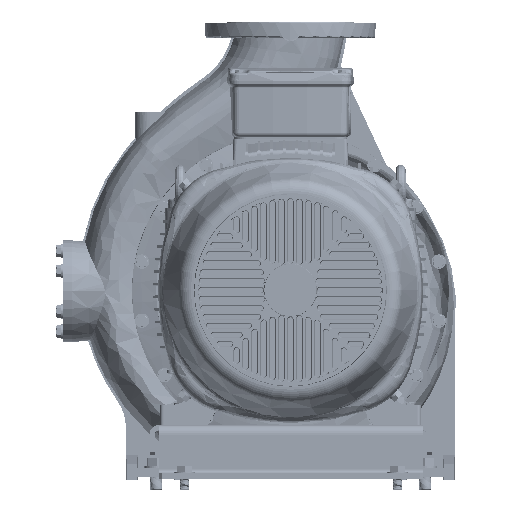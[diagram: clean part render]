
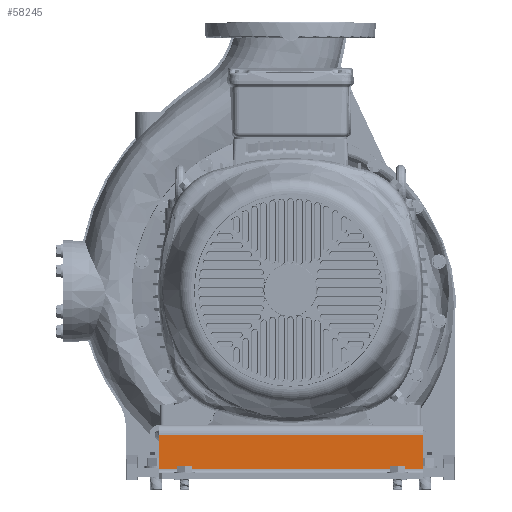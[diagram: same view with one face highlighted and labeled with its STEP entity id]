
A CAD part, top view. The second image highlights one B-rep face of the part: STEP entity #58245.
In plain terms, the highlighted planar face has unit normal (0, 0, 1) as drawn and (1, 0, 0) by its records, which use the part's own axes.
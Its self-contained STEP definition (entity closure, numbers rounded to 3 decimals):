
#5104 = CARTESIAN_POINT ( 'NONE',  ( 466., 74., -473.001 ) ) ;
#7392 = VERTEX_POINT ( 'NONE', #31119 ) ;
#9989 = FACE_OUTER_BOUND ( 'NONE', #92542, .T. ) ;
#10890 = CARTESIAN_POINT ( 'NONE',  ( 466., 90., -473.001 ) ) ;
#15568 = CARTESIAN_POINT ( 'NONE',  ( 466., 16., -457. ) ) ;
#16462 = AXIS2_PLACEMENT_3D ( 'NONE', #10890, #124002, #93917 ) ;
#17474 = ORIENTED_EDGE ( 'NONE', *, *, #66719, .T. ) ;
#18796 = VECTOR ( 'NONE', #115772, 1000. ) ;
#22412 = CARTESIAN_POINT ( 'NONE',  ( 466., -0.001, -457. ) ) ;
#29575 = VECTOR ( 'NONE', #61604, 1000. ) ;
#31016 = DIRECTION ( 'NONE',  ( 0., 0., -1. ) ) ;
#31119 = CARTESIAN_POINT ( 'NONE',  ( 466., 16., -16. ) ) ;
#32696 = CARTESIAN_POINT ( 'NONE',  ( 466., 16., -457. ) ) ;
#43731 = LINE ( 'NONE', #170546, #18796 ) ;
#51957 = ORIENTED_EDGE ( 'NONE', *, *, #166198, .T. ) ;
#58245 = ADVANCED_FACE ( 'NONE', ( #9989 ), #162381, .F. ) ;
#59825 = DIRECTION ( 'NONE',  ( 0., 0., 1. ) ) ;
#61604 = DIRECTION ( 'NONE',  ( 0., -1., 0. ) ) ;
#64205 = CARTESIAN_POINT ( 'NONE',  ( 466., 74., -457. ) ) ;
#66719 = EDGE_CURVE ( 'NONE', #146847, #98795, #117332, .T. ) ;
#83056 = ORIENTED_EDGE ( 'NONE', *, *, #161215, .F. ) ;
#85430 = VECTOR ( 'NONE', #31016, 1000. ) ;
#85787 = LINE ( 'NONE', #15568, #85430 ) ;
#92111 = VERTEX_POINT ( 'NONE', #32696 ) ;
#92542 = EDGE_LOOP ( 'NONE', ( #144990, #51957, #83056, #17474 ) ) ;
#93917 = DIRECTION ( 'NONE',  ( 0., -1., 0. ) ) ;
#97785 = EDGE_CURVE ( 'NONE', #7392, #98795, #43731, .T. ) ;
#98795 = VERTEX_POINT ( 'NONE', #177521 ) ;
#115772 = DIRECTION ( 'NONE',  ( 0., 1., 0. ) ) ;
#117332 = LINE ( 'NONE', #5104, #174264 ) ;
#124002 = DIRECTION ( 'NONE',  ( -1., 0., 0. ) ) ;
#131012 = LINE ( 'NONE', #22412, #29575 ) ;
#144990 = ORIENTED_EDGE ( 'NONE', *, *, #97785, .F. ) ;
#146847 = VERTEX_POINT ( 'NONE', #64205 ) ;
#161215 = EDGE_CURVE ( 'NONE', #146847, #92111, #131012, .T. ) ;
#162381 = PLANE ( 'NONE',  #16462 ) ;
#166198 = EDGE_CURVE ( 'NONE', #7392, #92111, #85787, .T. ) ;
#170546 = CARTESIAN_POINT ( 'NONE',  ( 466., -0.001, -16. ) ) ;
#174264 = VECTOR ( 'NONE', #59825, 1000. ) ;
#177521 = CARTESIAN_POINT ( 'NONE',  ( 466., 74., -16. ) ) ;
